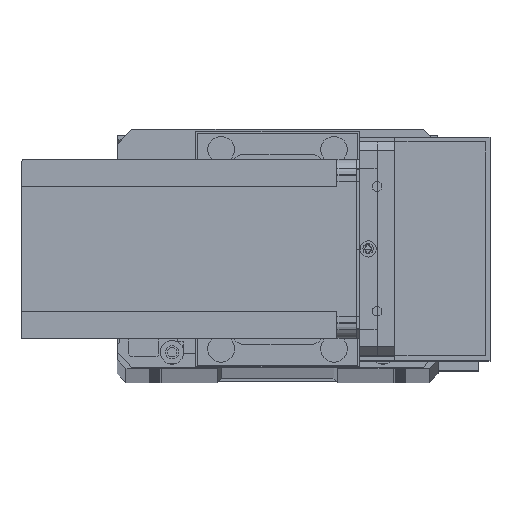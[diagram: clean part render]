
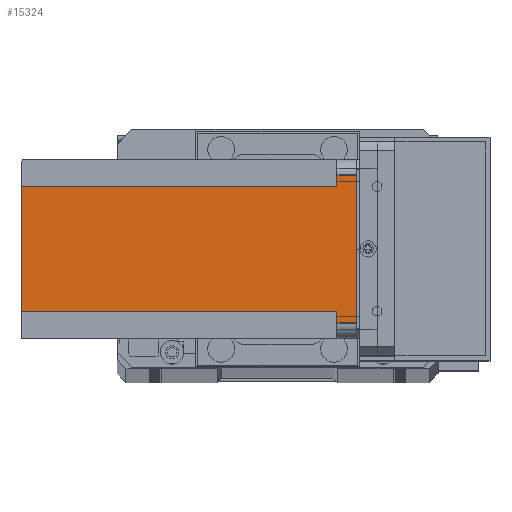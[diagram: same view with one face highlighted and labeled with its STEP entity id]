
A CAD part, top view. The second image highlights one B-rep face of the part: STEP entity #15324.
In plain terms, the highlighted planar face has unit normal (0, 0, 1) as drawn and (1, 0, 0) by its records, which use the part's own axes.
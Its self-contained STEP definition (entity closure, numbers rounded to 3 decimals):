
#546 = EDGE_LOOP ( 'NONE', ( #860, #9019, #29273, #30002, #13333, #4931, #1331, #15187 ) ) ;
#860 = ORIENTED_EDGE ( 'NONE', *, *, #10235, .F. ) ;
#1220 = LINE ( 'NONE', #12523, #28708 ) ;
#1331 = ORIENTED_EDGE ( 'NONE', *, *, #24843, .T. ) ;
#3867 = VECTOR ( 'NONE', #25232, 1000. ) ;
#4604 = DIRECTION ( 'NONE',  ( 0., -1., 0. ) ) ;
#4811 = FACE_OUTER_BOUND ( 'NONE', #546, .T. ) ;
#4931 = ORIENTED_EDGE ( 'NONE', *, *, #16552, .F. ) ;
#5340 = VECTOR ( 'NONE', #24908, 1000. ) ;
#6164 = CARTESIAN_POINT ( 'NONE',  ( 60., 51., -112.5 ) ) ;
#9019 = ORIENTED_EDGE ( 'NONE', *, *, #13873, .T. ) ;
#9062 = CARTESIAN_POINT ( 'NONE',  ( 60., 55., -6.5 ) ) ;
#9072 = CARTESIAN_POINT ( 'NONE',  ( 60., 0., -112.5 ) ) ;
#9220 = VECTOR ( 'NONE', #18924, 1000. ) ;
#10235 = EDGE_CURVE ( 'NONE', #11428, #23535, #23285, .T. ) ;
#11428 = VERTEX_POINT ( 'NONE', #9062 ) ;
#11744 = DIRECTION ( 'NONE',  ( 0., 1., 0. ) ) ;
#11975 = CARTESIAN_POINT ( 'NONE',  ( 60., 55., -112.5 ) ) ;
#12032 = VERTEX_POINT ( 'NONE', #33644 ) ;
#12224 = LINE ( 'NONE', #14121, #33412 ) ;
#12523 = CARTESIAN_POINT ( 'NONE',  ( 60., 0., -6.5 ) ) ;
#12612 = VERTEX_POINT ( 'NONE', #24625 ) ;
#13333 = ORIENTED_EDGE ( 'NONE', *, *, #18855, .F. ) ;
#13873 = EDGE_CURVE ( 'NONE', #11428, #12612, #25100, .T. ) ;
#14121 = CARTESIAN_POINT ( 'NONE',  ( 60., 9., -112.5 ) ) ;
#15087 = DIRECTION ( 'NONE',  ( 0., 1., 0. ) ) ;
#15187 = ORIENTED_EDGE ( 'NONE', *, *, #27783, .F. ) ;
#15295 = VECTOR ( 'NONE', #15087, 1000. ) ;
#15324 = ADVANCED_FACE ( 'NONE', ( #4811 ), #21763, .T. ) ;
#16214 = VECTOR ( 'NONE', #17409, 1000. ) ;
#16239 = CARTESIAN_POINT ( 'NONE',  ( 60., 5., -112.5 ) ) ;
#16487 = CARTESIAN_POINT ( 'NONE',  ( 60., 0., -112.5 ) ) ;
#16552 = EDGE_CURVE ( 'NONE', #17513, #17711, #12224, .T. ) ;
#17409 = DIRECTION ( 'NONE',  ( 0., -1., 0. ) ) ;
#17513 = VERTEX_POINT ( 'NONE', #18584 ) ;
#17711 = VERTEX_POINT ( 'NONE', #33827 ) ;
#18109 = CARTESIAN_POINT ( 'NONE',  ( 60., 5., 0. ) ) ;
#18482 = VECTOR ( 'NONE', #26926, 1000. ) ;
#18579 = AXIS2_PLACEMENT_3D ( 'NONE', #9072, #27674, #11744 ) ;
#18584 = CARTESIAN_POINT ( 'NONE',  ( 60., 9., -112.5 ) ) ;
#18657 = LINE ( 'NONE', #6164, #5340 ) ;
#18855 = EDGE_CURVE ( 'NONE', #17711, #29506, #1220, .T. ) ;
#18924 = DIRECTION ( 'NONE',  ( 0., 1., 0. ) ) ;
#19006 = CARTESIAN_POINT ( 'NONE',  ( 60., 51., -6.5 ) ) ;
#20150 = LINE ( 'NONE', #16239, #18482 ) ;
#20453 = CARTESIAN_POINT ( 'NONE',  ( 60., 0., 0. ) ) ;
#20539 = VERTEX_POINT ( 'NONE', #18109 ) ;
#21763 = PLANE ( 'NONE',  #18579 ) ;
#22540 = LINE ( 'NONE', #16487, #9220 ) ;
#23285 = LINE ( 'NONE', #33069, #16214 ) ;
#23510 = EDGE_CURVE ( 'NONE', #20539, #29506, #20150, .T. ) ;
#23535 = VERTEX_POINT ( 'NONE', #19006 ) ;
#24625 = CARTESIAN_POINT ( 'NONE',  ( 60., 55., 0. ) ) ;
#24843 = EDGE_CURVE ( 'NONE', #17513, #12032, #22540, .T. ) ;
#24908 = DIRECTION ( 'NONE',  ( 0., 0., -1. ) ) ;
#25100 = LINE ( 'NONE', #11975, #3867 ) ;
#25232 = DIRECTION ( 'NONE',  ( 0., 0., 1. ) ) ;
#26926 = DIRECTION ( 'NONE',  ( 0., 0., -1. ) ) ;
#27674 = DIRECTION ( 'NONE',  ( 1., 0., 0. ) ) ;
#27752 = LINE ( 'NONE', #20453, #15295 ) ;
#27783 = EDGE_CURVE ( 'NONE', #23535, #12032, #18657, .T. ) ;
#28708 = VECTOR ( 'NONE', #4604, 1000. ) ;
#29273 = ORIENTED_EDGE ( 'NONE', *, *, #30330, .F. ) ;
#29506 = VERTEX_POINT ( 'NONE', #29877 ) ;
#29877 = CARTESIAN_POINT ( 'NONE',  ( 60., 5., -6.5 ) ) ;
#30002 = ORIENTED_EDGE ( 'NONE', *, *, #23510, .T. ) ;
#30026 = DIRECTION ( 'NONE',  ( 0., 0., 1. ) ) ;
#30330 = EDGE_CURVE ( 'NONE', #20539, #12612, #27752, .T. ) ;
#33069 = CARTESIAN_POINT ( 'NONE',  ( 60., 60., -6.5 ) ) ;
#33412 = VECTOR ( 'NONE', #30026, 1000. ) ;
#33644 = CARTESIAN_POINT ( 'NONE',  ( 60., 51., -112.5 ) ) ;
#33827 = CARTESIAN_POINT ( 'NONE',  ( 60., 9., -6.5 ) ) ;
